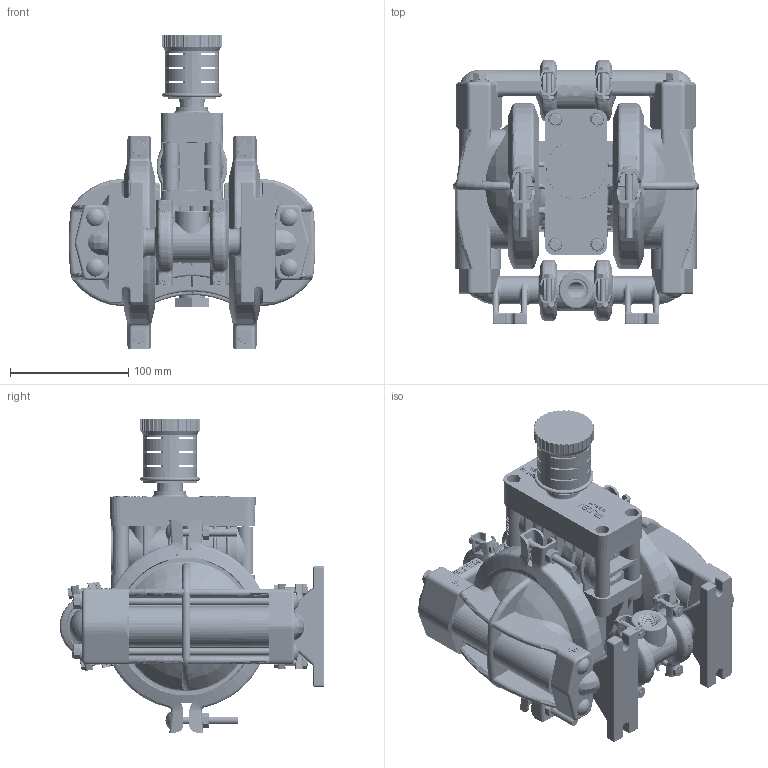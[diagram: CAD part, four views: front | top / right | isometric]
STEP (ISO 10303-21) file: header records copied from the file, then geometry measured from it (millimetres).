
FILE_DESCRIPTION((''),'2;1');
FILE_NAME('P1_PLASTIC_TOP','2009-11-30T',('Roy.Andrade'),(''),'PRO/ENGINEER BY PARAMETRIC TECHNOLOGY CORPORATION, 2008400','PRO/ENGINEER BY PARAMETRIC TECHNOLOGY CORPORATION, 2008400','');
FILE_SCHEMA(('CONFIG_CONTROL_DESIGN'));
Products named in the file (1): P1_PLASTIC_TOP
Bounding box: 208.48 x 223.51 x 264.73 mm (x, y, z)
Volume: 1726990.6 mm3; surface area: 615268.8 mm2
Topology: 7 solids, 10 shells, 10330 faces, 27291 edges, 17322 vertices
Faces by surface type: plane 6520, cylinder 1383, bspline 1284, cone 572, torus 424, sphere 147
Entity records: 566545 total; most frequent: CARTESIAN_POINT 322979, ORIENTED_EDGE 54530, DIRECTION 44084, EDGE_CURVE 27265, VECTOR 17738, LINE 17738, VERTEX_POINT 17322, AXIS2_PLACEMENT_3D 13173
